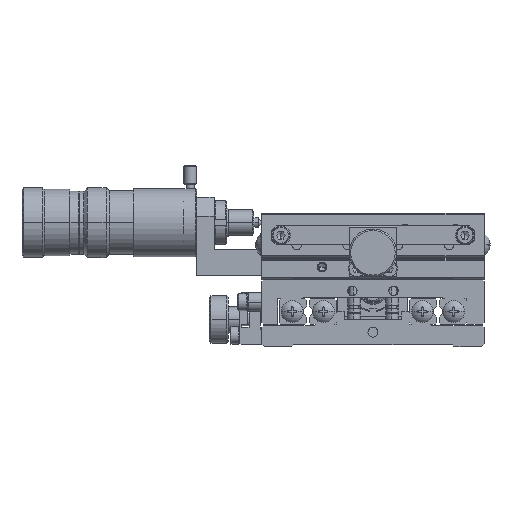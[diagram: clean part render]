
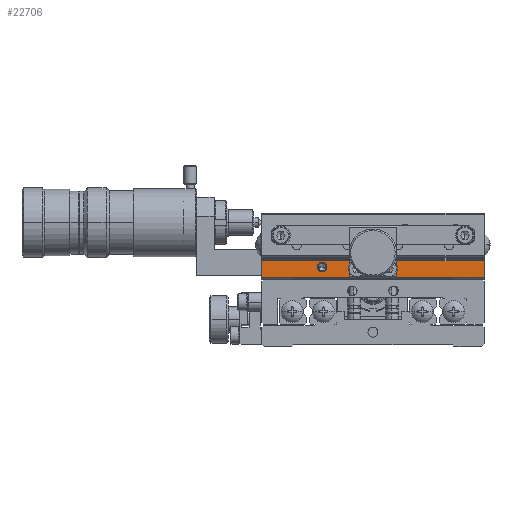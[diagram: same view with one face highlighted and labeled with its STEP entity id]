
A CAD part, front view. The second image highlights one B-rep face of the part: STEP entity #22706.
In plain terms, the highlighted planar face has unit normal (0, -1, 0).
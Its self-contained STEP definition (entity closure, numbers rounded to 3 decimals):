
#19156 = EDGE_LOOP ( 'NONE', ( #21737, #21816 ) ) ;
#19555 = CARTESIAN_POINT ( 'NONE',  ( 35., -35., 19.5 ) ) ;
#19581 = VERTEX_POINT ( 'NONE', #22101 ) ;
#19623 = EDGE_CURVE ( 'NONE', #19709, #19581, #22100, .T. ) ;
#19709 = VERTEX_POINT ( 'NONE', #22090 ) ;
#19890 = EDGE_CURVE ( 'NONE', #20644, #19903, #22139, .T. ) ;
#19903 = VERTEX_POINT ( 'NONE', #22135 ) ;
#20644 = VERTEX_POINT ( 'NONE', #22152 ) ;
#20933 = ORIENTED_EDGE ( 'NONE', *, *, #23265, .F. ) ;
#21135 = EDGE_CURVE ( 'NONE', #21204, #21229, #22176, .T. ) ;
#21204 = VERTEX_POINT ( 'NONE', #22238 ) ;
#21229 = VERTEX_POINT ( 'NONE', #22237 ) ;
#21294 = EDGE_CURVE ( 'NONE', #19709, #21229, #22236, .T. ) ;
#21329 = ORIENTED_EDGE ( 'NONE', *, *, #19623, .F. ) ;
#21358 = ORIENTED_EDGE ( 'NONE', *, *, #21135, .F. ) ;
#21405 = ORIENTED_EDGE ( 'NONE', *, *, #21294, .T. ) ;
#21660 = VECTOR ( 'NONE', #21662, 1000. ) ;
#21662 = DIRECTION ( 'NONE',  ( -1., 0., 0. ) ) ;
#21737 = ORIENTED_EDGE ( 'NONE', *, *, #21782, .F. ) ;
#21782 = EDGE_CURVE ( 'NONE', #42474, #42464, #22216, .T. ) ;
#21816 = ORIENTED_EDGE ( 'NONE', *, *, #42469, .F. ) ;
#21890 = EDGE_LOOP ( 'NONE', ( #21329, #21405, #21358, #20933, #23385, #23431, #23439, #22791 ) ) ;
#22090 = CARTESIAN_POINT ( 'NONE',  ( -7.5, -35., 14.8 ) ) ;
#22097 = DIRECTION ( 'NONE',  ( -1., 0., 0. ) ) ;
#22098 = VECTOR ( 'NONE', #22097, 1000. ) ;
#22099 = CARTESIAN_POINT ( 'NONE',  ( 35., -35., 14.8 ) ) ;
#22100 = LINE ( 'NONE', #22099, #22098 ) ;
#22101 = CARTESIAN_POINT ( 'NONE',  ( -35., -35., 14.8 ) ) ;
#22135 = CARTESIAN_POINT ( 'NONE',  ( 7.5, -35., 14.8 ) ) ;
#22136 = DIRECTION ( 'NONE',  ( -1., 0., 0. ) ) ;
#22137 = VECTOR ( 'NONE', #22136, 1000. ) ;
#22138 = CARTESIAN_POINT ( 'NONE',  ( 35., -35., 14.8 ) ) ;
#22139 = LINE ( 'NONE', #22138, #22137 ) ;
#22152 = CARTESIAN_POINT ( 'NONE',  ( 35., -35., 14.8 ) ) ;
#22176 = LINE ( 'NONE', #19555, #21660 ) ;
#22211 = DIRECTION ( 'NONE',  ( 1., 0., 0. ) ) ;
#22212 = DIRECTION ( 'NONE',  ( 0., -1., 0. ) ) ;
#22213 = CARTESIAN_POINT ( 'NONE',  ( -16., -35., 18. ) ) ;
#22214 = AXIS2_PLACEMENT_3D ( 'NONE', #22213, #22212, #22211 ) ;
#22216 = CIRCLE ( 'NONE', #22214, 1.5 ) ;
#22233 = DIRECTION ( 'NONE',  ( 0., 0., 1. ) ) ;
#22234 = VECTOR ( 'NONE', #22233, 1000. ) ;
#22235 = CARTESIAN_POINT ( 'NONE',  ( -7.5, -35., 14.8 ) ) ;
#22236 = LINE ( 'NONE', #22235, #22234 ) ;
#22237 = CARTESIAN_POINT ( 'NONE',  ( -7.5, -35., 19.5 ) ) ;
#22238 = CARTESIAN_POINT ( 'NONE',  ( 7.5, -35., 19.5 ) ) ;
#22241 = DIRECTION ( 'NONE',  ( 0., 0., 1. ) ) ;
#22242 = VECTOR ( 'NONE', #22241, 1000. ) ;
#22243 = CARTESIAN_POINT ( 'NONE',  ( -35., -35., 14.8 ) ) ;
#22244 = LINE ( 'NONE', #22243, #22242 ) ;
#22245 = DIRECTION ( 'NONE',  ( -1., 0., 0. ) ) ;
#22246 = DIRECTION ( 'NONE',  ( 0., -1., 0. ) ) ;
#22247 = AXIS2_PLACEMENT_3D ( 'NONE', #22248, #22246, #22245 ) ;
#22248 = CARTESIAN_POINT ( 'NONE',  ( 35., -35., 14.8 ) ) ;
#22249 = PLANE ( 'NONE',  #22247 ) ;
#22250 = FACE_OUTER_BOUND ( 'NONE', #21890, .T. ) ;
#22251 = FACE_BOUND ( 'NONE', #19156, .T. ) ;
#22267 = CARTESIAN_POINT ( 'NONE',  ( -35., -35., 20. ) ) ;
#22290 = DIRECTION ( 'NONE',  ( 0., 0., 1. ) ) ;
#22291 = VECTOR ( 'NONE', #22290, 1000. ) ;
#22292 = CARTESIAN_POINT ( 'NONE',  ( 35., -35., 14.8 ) ) ;
#22293 = LINE ( 'NONE', #22292, #22291 ) ;
#22294 = DIRECTION ( 'NONE',  ( 0., 0., 1. ) ) ;
#22295 = VECTOR ( 'NONE', #22294, 1000. ) ;
#22296 = CARTESIAN_POINT ( 'NONE',  ( 7.5, -35., 14.8 ) ) ;
#22297 = LINE ( 'NONE', #22296, #22295 ) ;
#22310 = VERTEX_POINT ( 'NONE', #22267 ) ;
#22332 = DIRECTION ( 'NONE',  ( -1., 0., 0. ) ) ;
#22333 = VECTOR ( 'NONE', #22332, 1000. ) ;
#22334 = CARTESIAN_POINT ( 'NONE',  ( 35., -35., 20. ) ) ;
#22335 = LINE ( 'NONE', #22334, #22333 ) ;
#22339 = CARTESIAN_POINT ( 'NONE',  ( 35., -35., 20. ) ) ;
#22706 = ADVANCED_FACE ( 'NONE', ( #22251, #22250 ), #22249, .T. ) ;
#22791 = ORIENTED_EDGE ( 'NONE', *, *, #22939, .F. ) ;
#22939 = EDGE_CURVE ( 'NONE', #19581, #22310, #22244, .T. ) ;
#23265 = EDGE_CURVE ( 'NONE', #19903, #21204, #22297, .T. ) ;
#23282 = EDGE_CURVE ( 'NONE', #20644, #23489, #22293, .T. ) ;
#23385 = ORIENTED_EDGE ( 'NONE', *, *, #19890, .F. ) ;
#23431 = ORIENTED_EDGE ( 'NONE', *, *, #23282, .T. ) ;
#23439 = ORIENTED_EDGE ( 'NONE', *, *, #23490, .T. ) ;
#23489 = VERTEX_POINT ( 'NONE', #22339 ) ;
#23490 = EDGE_CURVE ( 'NONE', #23489, #22310, #22335, .T. ) ;
#33045 = CARTESIAN_POINT ( 'NONE',  ( -14.5, -35., 18. ) ) ;
#33050 = DIRECTION ( 'NONE',  ( 1., 0., 0. ) ) ;
#33051 = DIRECTION ( 'NONE',  ( 0., -1., 0. ) ) ;
#33052 = CARTESIAN_POINT ( 'NONE',  ( -16., -35., 18. ) ) ;
#33053 = AXIS2_PLACEMENT_3D ( 'NONE', #33052, #33051, #33050 ) ;
#33054 = CIRCLE ( 'NONE', #33053, 1.5 ) ;
#33056 = CARTESIAN_POINT ( 'NONE',  ( -17.5, -35., 18. ) ) ;
#42464 = VERTEX_POINT ( 'NONE', #33056 ) ;
#42469 = EDGE_CURVE ( 'NONE', #42464, #42474, #33054, .T. ) ;
#42474 = VERTEX_POINT ( 'NONE', #33045 ) ;
